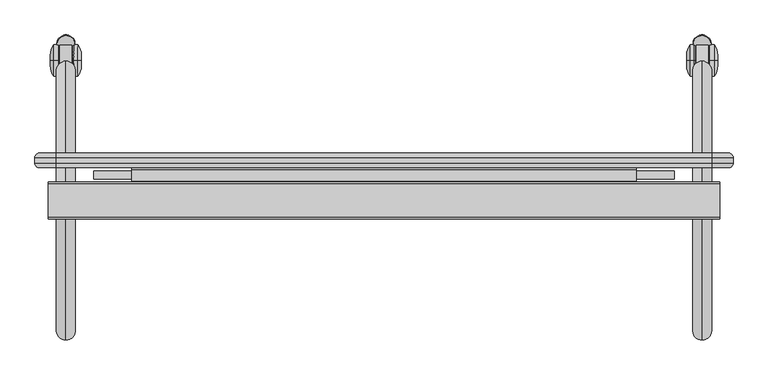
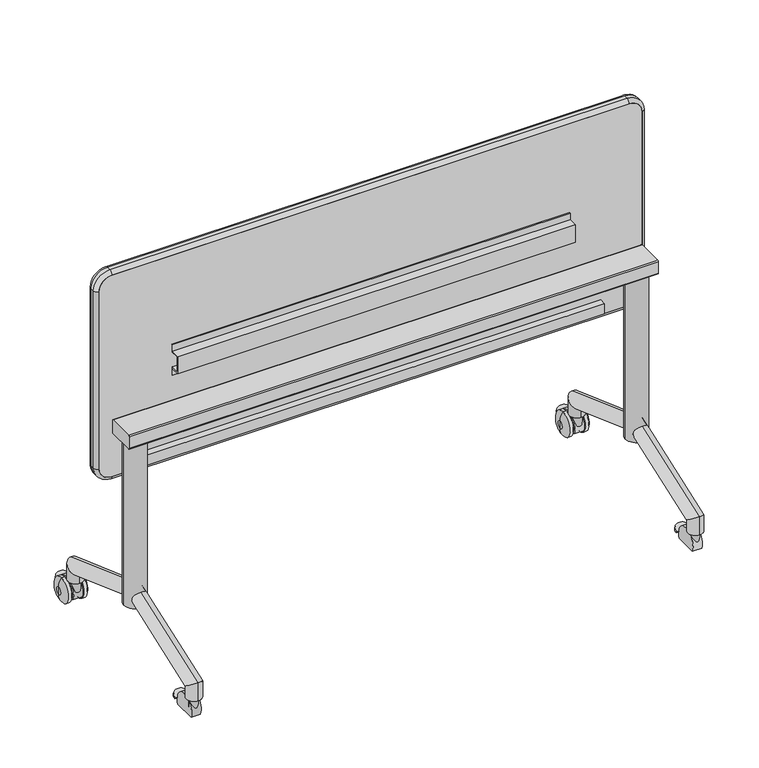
"""IFC4 building model written with IfcOpenShell, lengths in millimetres: furniture geometry, SmithSystem_AM_Table_Education_Elemental_NestAndFold_Nested_24D : 24D x 60W."""

from ifc_helpers import new_model, si_unit, point, frame, frame_2d, origin, place, context, project, spatial, polyline, circle_curve, ellipse_curve, trimmed, segment, composite_curve, outline, extrude, source, transform, mapped, element, save
from ifc_brep_helpers import plane_surface, cylinder_surface, revolved_surface, advanced_brep


def furniture_3c5f1cf7(model_context):
    return source(origin(), model_context, "Body", "SolidModel", [
        advanced_brep(
        [(9.652, -233.0884913, 1061.2767703), (45.212, -233.0884913, 1096.8367703), (45.212, -223.5421117, 1106.4887703), (0.0, -223.5421117, 1061.2767703), (9.652, -201.3170825, 1061.2767703), (45.212, -201.3170825, 1096.8367703), (0.0, -210.8420535, 1061.2767703), (45.212, -210.8420535, 1106.4887703), (0.0, -223.5421117, 541.8459346), (9.652, -233.0884913, 541.8459346), (9.652, -201.3170825, 541.8459346), (0.0, -210.8420535, 541.8459346), (45.212, -233.0884913, 506.2859346), (45.212, -223.5421117, 496.6339346), (45.212, -201.3170825, 506.2859346), (45.212, -210.8420535, 496.6339346), (1478.788, -223.5421117, 496.6339346), (1478.788, -233.0884913, 506.2859346), (1478.788, -201.3170825, 506.2859346), (1478.788, -210.8420535, 496.6339346), (1514.348, -233.0884913, 541.8459346), (1524.0, -223.5421117, 541.8459346), (1514.348, -201.3170825, 541.8459346), (1524.0, -210.8420535, 541.8459346), (1524.0, -223.5421117, 1061.2767703), (1514.348, -233.0884913, 1061.2767703), (1514.348, -201.3170825, 1061.2767703), (1524.0, -210.8420535, 1061.2767703), (1478.788, -233.0884913, 1096.8367703), (1478.788, -223.5421117, 1106.4887703), (1478.788, -201.3170825, 1096.8367703), (1478.788, -210.8420535, 1106.4887703)],
        [
            (0, 1, circle_curve(frame((45.212, -233.0884913, 1061.2767703), z_axis=(0.0, 1.0, 0.0), x_axis=(0.0, 0.0, 1.0)), 35.56)),
            (1, 2, circle_curve(frame((45.212, -223.5421117, 1096.9418128), z_axis=(-1.0, 0.0, 0.0), x_axis=(0.0, 0.0, -1.0)), 9.5469575)),
            (2, 3, circle_curve(frame((45.212, -223.5421117, 1061.2767703), z_axis=(0.0, -1.0, 0.0), x_axis=(0.0, 0.0, 1.0)), 45.212)),
            (3, 0, circle_curve(frame((9.5469575, -223.5421117, 1061.2767703), z_axis=(0.0, 0.0, 1.0), x_axis=(1.0, 0.0, 0.0)), 9.5469575)),
            (4, 5, circle_curve(frame((45.212, -201.3170825, 1061.2767703), z_axis=(0.0, 1.0, 0.0), x_axis=(0.0, 0.0, 1.0)), 35.56)),
            (5, 1),
            (0, 4),
            (6, 7, circle_curve(frame((45.212, -210.8420535, 1061.2767703), z_axis=(0.0, 1.0, 0.0), x_axis=(0.0, 0.0, 1.0)), 45.212)),
            (7, 5, circle_curve(frame((45.212, -210.8420535, 1096.9629634), z_axis=(-1.0, 0.0, 0.0), x_axis=(0.0, 0.0, -1.0)), 9.5258069)),
            (4, 6, circle_curve(frame((9.5258069, -210.8420535, 1061.2767703), z_axis=(0.0, 0.0, 1.0), x_axis=(1.0, 0.0, 0.0)), 9.5258069)),
            (2, 7),
            (6, 3),
            (3, 8),
            (8, 9, circle_curve(frame((9.5469575, -223.5421117, 541.8459346), z_axis=(0.0, 0.0, 1.0), x_axis=(1.0, 0.0, 0.0)), 9.5469575)),
            (9, 0),
            (9, 10),
            (10, 4),
            (10, 11, circle_curve(frame((9.5258069, -210.8420535, 541.8459346), z_axis=(0.0, 0.0, 1.0), x_axis=(1.0, 0.0, 0.0)), 9.5258069)),
            (11, 6),
            (11, 8),
            (12, 9, circle_curve(frame((45.212, -233.0884913, 541.8459346), z_axis=(0.0, 1.0, 0.0), x_axis=(-1.0, 0.0, 0.0)), 35.56)),
            (8, 13, circle_curve(frame((45.212, -223.5421117, 541.8459346), z_axis=(0.0, -1.0, 0.0), x_axis=(-1.0, 0.0, 0.0)), 45.212)),
            (13, 12, circle_curve(frame((45.212, -223.5421117, 506.180892), z_axis=(-1.0, 0.0, 0.0), x_axis=(0.0, 0.0, 1.0)), 9.5469575)),
            (14, 10, circle_curve(frame((45.212, -201.3170825, 541.8459346), z_axis=(0.0, 1.0, 0.0), x_axis=(-1.0, 0.0, 0.0)), 35.56)),
            (12, 14),
            (15, 11, circle_curve(frame((45.212, -210.8420535, 541.8459346), z_axis=(0.0, 1.0, 0.0), x_axis=(-1.0, 0.0, 0.0)), 45.212)),
            (14, 15, circle_curve(frame((45.212, -210.8420535, 506.1597415), z_axis=(-1.0, 0.0, 0.0), x_axis=(0.0, 0.0, 1.0)), 9.5258069)),
            (15, 13),
            (13, 16),
            (16, 17, circle_curve(frame((1478.788, -223.5421117, 506.180892), z_axis=(-1.0, 0.0, 0.0), x_axis=(0.0, 0.0, 1.0)), 9.5469575)),
            (17, 12),
            (17, 18),
            (18, 14),
            (18, 19, circle_curve(frame((1478.788, -210.8420535, 506.1597415), z_axis=(-1.0, 0.0, 0.0), x_axis=(0.0, 0.0, 1.0)), 9.5258069)),
            (19, 15),
            (19, 16),
            (20, 17, circle_curve(frame((1478.788, -233.0884913, 541.8459346), z_axis=(0.0, 1.0, 0.0), x_axis=(0.0, 0.0, -1.0)), 35.56)),
            (16, 21, circle_curve(frame((1478.788, -223.5421117, 541.8459346), z_axis=(0.0, -1.0, 0.0), x_axis=(0.0, 0.0, -1.0)), 45.212)),
            (21, 20, circle_curve(frame((1514.4530425, -223.5421117, 541.8459346), z_axis=(0.0, 0.0, -1.0), x_axis=(-1.0, 0.0, 0.0)), 9.5469575)),
            (22, 18, circle_curve(frame((1478.788, -201.3170825, 541.8459346), z_axis=(0.0, 1.0, 0.0), x_axis=(0.0, 0.0, -1.0)), 35.56)),
            (20, 22),
            (23, 19, circle_curve(frame((1478.788, -210.8420535, 541.8459346), z_axis=(0.0, 1.0, 0.0), x_axis=(0.0, 0.0, -1.0)), 45.212)),
            (22, 23, circle_curve(frame((1514.4741931, -210.8420535, 541.8459346), z_axis=(0.0, 0.0, -1.0), x_axis=(-1.0, 0.0, 0.0)), 9.5258069)),
            (23, 21),
            (21, 24),
            (24, 25, circle_curve(frame((1514.4530425, -223.5421117, 1061.2767703), z_axis=(0.0, 0.0, -1.0), x_axis=(-1.0, 0.0, 0.0)), 9.5469575)),
            (25, 20),
            (25, 26),
            (26, 22),
            (26, 27, circle_curve(frame((1514.4741931, -210.8420535, 1061.2767703), z_axis=(0.0, 0.0, -1.0), x_axis=(-1.0, 0.0, 0.0)), 9.5258069)),
            (27, 23),
            (27, 24),
            (28, 25, circle_curve(frame((1478.788, -233.0884913, 1061.2767703), z_axis=(0.0, 1.0, 0.0), x_axis=(1.0, 0.0, 0.0)), 35.56)),
            (24, 29, circle_curve(frame((1478.788, -223.5421117, 1061.2767703), z_axis=(0.0, -1.0, 0.0), x_axis=(1.0, 0.0, 0.0)), 45.212)),
            (29, 28, circle_curve(frame((1478.788, -223.5421117, 1096.9418128), z_axis=(1.0, 0.0, 0.0), x_axis=(0.0, 0.0, -1.0)), 9.5469575)),
            (30, 26, circle_curve(frame((1478.788, -201.3170825, 1061.2767703), z_axis=(0.0, 1.0, 0.0), x_axis=(1.0, 0.0, 0.0)), 35.56)),
            (28, 30),
            (31, 27, circle_curve(frame((1478.788, -210.8420535, 1061.2767703), z_axis=(0.0, 1.0, 0.0), x_axis=(1.0, 0.0, 0.0)), 45.212)),
            (30, 31, circle_curve(frame((1478.788, -210.8420535, 1096.9629634), z_axis=(1.0, 0.0, 0.0), x_axis=(0.0, 0.0, -1.0)), 9.5258069)),
            (31, 29),
            (29, 2),
            (1, 28),
            (5, 30),
            (7, 31),
        ],
        [
            revolved_surface(trimmed(ellipse_curve(frame((45.212, -223.5421117, 1096.9418128), z_axis=(1.0, 0.0, 0.0), x_axis=(0.0, 0.0, -1.0)), 9.5469575, 9.5469575), [point((45.212, -223.5421117, 1106.4887703))], [point((45.212, -233.0884913, 1096.8367703))], True, "CARTESIAN"), (45.212, 0.0, 1061.2767703), (0.0, -1.0, 0.0)),
            revolved_surface(polyline([(45.212, -233.0884913, 1096.8367703), (45.212, -201.3170825, 1096.8367703)]), (45.212, 0.0, 1061.2767703), (0.0, -1.0, 0.0)),
            revolved_surface(trimmed(ellipse_curve(frame((45.212, -210.8420535, 1096.9629634), z_axis=(1.0, 0.0, 0.0), x_axis=(0.0, 0.0, -1.0)), 9.5258069, 9.5258069), [point((45.212, -201.3170825, 1096.8367703))], [point((45.212, -210.8420535, 1106.4887703))], True, "CARTESIAN"), (45.212, 0.0, 1061.2767703), (0.0, -1.0, 0.0)),
            cylinder_surface(frame((45.212, 0.0, 1061.2767703), z_axis=(0.0, -1.0, 0.0), x_axis=(0.0, 0.0, 1.0)), 45.212),
            cylinder_surface(frame((9.5469575, -223.5421117, 1061.2767703), z_axis=(0.0, 0.0, 1.0), x_axis=(1.0, 0.0, 0.0)), 9.5469575),
            plane_surface(frame((9.652, -233.0884913, 1061.2767703), z_axis=(1.0, 0.0, 0.0), x_axis=(0.0, 0.0, -1.0))),
            cylinder_surface(frame((9.5258069, -210.8420535, 1061.2767703), z_axis=(0.0, 0.0, 1.0), x_axis=(1.0, 0.0, 0.0)), 9.5258069),
            plane_surface(frame((0.0, -210.8420535, 1061.2767703), z_axis=(-1.0, 0.0, 0.0), x_axis=(0.0, 0.0, -1.0))),
            revolved_surface(trimmed(ellipse_curve(frame((9.5469575, -223.5421117, 541.8459346), z_axis=(0.0, 0.0, 1.0), x_axis=(1.0, 0.0, 0.0)), 9.5469575, 9.5469575), [point((0.0, -223.5421117, 541.8459346))], [point((9.652, -233.0884913, 541.8459346))], True, "CARTESIAN"), (45.212, 0.0, 541.8459346), (0.0, -1.0, 0.0)),
            revolved_surface(polyline([(9.652000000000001, -233.0884913, 541.8459346), (9.652000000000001, -201.3170825, 541.8459346)]), (45.212, 0.0, 541.8459346), (0.0, -1.0, 0.0)),
            revolved_surface(trimmed(ellipse_curve(frame((9.5258069, -210.8420535, 541.8459346), z_axis=(0.0, 0.0, 1.0), x_axis=(1.0, 0.0, 0.0)), 9.5258069, 9.5258069), [point((9.652, -201.3170825, 541.8459346))], [point((0.0, -210.8420535, 541.8459346))], True, "CARTESIAN"), (45.212, 0.0, 541.8459346), (0.0, -1.0, 0.0)),
            cylinder_surface(frame((45.212, 0.0, 541.8459346), z_axis=(0.0, -1.0, 0.0), x_axis=(-1.0, 0.0, 0.0)), 45.212),
            cylinder_surface(frame((45.212, -223.5421117, 506.180892), z_axis=(-1.0, 0.0, 0.0), x_axis=(0.0, 0.0, 1.0)), 9.5469575),
            plane_surface(frame((45.212, -233.0884913, 506.2859346), z_axis=(0.0, 0.0, 1.0), x_axis=(1.0, 0.0, 0.0))),
            cylinder_surface(frame((45.212, -210.8420535, 506.1597415), z_axis=(-1.0, 0.0, 0.0), x_axis=(0.0, 0.0, 1.0)), 9.5258069),
            plane_surface(frame((45.212, -210.8420535, 496.6339346), z_axis=(0.0, 0.0, -1.0), x_axis=(1.0, 0.0, 0.0))),
            revolved_surface(trimmed(ellipse_curve(frame((1478.788, -223.5421117, 506.180892), z_axis=(-1.0, 0.0, 0.0), x_axis=(0.0, 0.0, 1.0)), 9.5469575, 9.5469575), [point((1478.788, -223.5421117, 496.6339346))], [point((1478.788, -233.0884913, 506.2859346))], True, "CARTESIAN"), (1478.788, 0.0, 541.8459346), (0.0, -1.0, 0.0)),
            revolved_surface(polyline([(1478.788, -233.0884913, 506.28593459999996), (1478.788, -201.3170825, 506.28593459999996)]), (1478.788, 0.0, 541.8459346), (0.0, -1.0, 0.0)),
            revolved_surface(trimmed(ellipse_curve(frame((1478.788, -210.8420535, 506.1597415), z_axis=(-1.0, 0.0, 0.0), x_axis=(0.0, 0.0, 1.0)), 9.5258069, 9.5258069), [point((1478.788, -201.3170825, 506.2859346))], [point((1478.788, -210.8420535, 496.6339346))], True, "CARTESIAN"), (1478.788, 0.0, 541.8459346), (0.0, -1.0, 0.0)),
            cylinder_surface(frame((1478.788, 0.0, 541.8459346), z_axis=(0.0, -1.0, 0.0), x_axis=(0.0, 0.0, -1.0)), 45.212),
            cylinder_surface(frame((1514.4530425, -223.5421117, 541.8459346), z_axis=(0.0, 0.0, -1.0), x_axis=(-1.0, 0.0, 0.0)), 9.5469575),
            plane_surface(frame((1514.348, -233.0884913, 541.8459346), z_axis=(-1.0, 0.0, 0.0), x_axis=(0.0, 0.0, 1.0))),
            cylinder_surface(frame((1514.4741931, -210.8420535, 541.8459346), z_axis=(0.0, 0.0, -1.0), x_axis=(-1.0, 0.0, 0.0)), 9.5258069),
            plane_surface(frame((1524.0, -210.8420535, 541.8459346), z_axis=(1.0, 0.0, 0.0), x_axis=(0.0, 0.0, 1.0))),
            revolved_surface(trimmed(ellipse_curve(frame((1514.4530425, -223.5421117, 1061.2767703), z_axis=(0.0, 0.0, -1.0), x_axis=(-1.0, 0.0, 0.0)), 9.5469575, 9.5469575), [point((1524.0, -223.5421117, 1061.2767703))], [point((1514.348, -233.0884913, 1061.2767703))], True, "CARTESIAN"), (1478.788, 0.0, 1061.2767703), (0.0, -1.0, 0.0)),
            revolved_surface(polyline([(1514.348, -233.0884913, 1061.2767703), (1514.348, -201.3170825, 1061.2767703)]), (1478.788, 0.0, 1061.2767703), (0.0, -1.0, 0.0)),
            revolved_surface(trimmed(ellipse_curve(frame((1514.4741931, -210.8420535, 1061.2767703), z_axis=(0.0, 0.0, -1.0), x_axis=(-1.0, 0.0, 0.0)), 9.5258069, 9.5258069), [point((1514.348, -201.3170825, 1061.2767703))], [point((1524.0, -210.8420535, 1061.2767703))], True, "CARTESIAN"), (1478.788, 0.0, 1061.2767703), (0.0, -1.0, 0.0)),
            cylinder_surface(frame((1478.788, 0.0, 1061.2767703), z_axis=(0.0, -1.0, 0.0), x_axis=(1.0, 0.0, 0.0)), 45.212),
            cylinder_surface(frame((1478.788, -223.5421117, 1096.9418128), z_axis=(1.0, 0.0, 0.0), x_axis=(0.0, 0.0, -1.0)), 9.5469575),
            plane_surface(frame((1478.788, -233.0884913, 1096.8367703), z_axis=(0.0, 0.0, -1.0), x_axis=(-1.0, 0.0, 0.0))),
            cylinder_surface(frame((1478.788, -210.8420535, 1096.9629634), z_axis=(1.0, 0.0, 0.0), x_axis=(0.0, 0.0, -1.0)), 9.5258069),
            plane_surface(frame((1478.788, -210.8420535, 1106.4887703), z_axis=(0.0, 0.0, 1.0), x_axis=(-1.0, 0.0, 0.0))),
        ],
        [
            (0, [[1, 2, 3, 4]]),
            (1, [[5, 6, -1, 7]]),
            (2, [[8, 9, -5, 10]]),
            (3, [[-3, 11, -8, 12]]),
            (4, [[-4, 13, 14, 15]]),
            (5, [[-7, -15, 16, 17]]),
            (6, [[-10, -17, 18, 19]]),
            (7, [[-12, -19, 20, -13]]),
            (8, [[21, -14, 22, 23]]),
            (9, [[24, -16, -21, 25]]),
            (10, [[26, -18, -24, 27]]),
            (11, [[-22, -20, -26, 28]]),
            (12, [[-23, 29, 30, 31]]),
            (13, [[-25, -31, 32, 33]]),
            (14, [[-27, -33, 34, 35]]),
            (15, [[-28, -35, 36, -29]]),
            (16, [[37, -30, 38, 39]]),
            (17, [[40, -32, -37, 41]]),
            (18, [[42, -34, -40, 43]]),
            (19, [[-38, -36, -42, 44]]),
            (20, [[-39, 45, 46, 47]]),
            (21, [[-41, -47, 48, 49]]),
            (22, [[-43, -49, 50, 51]]),
            (23, [[-44, -51, 52, -45]]),
            (24, [[53, -46, 54, 55]]),
            (25, [[56, -48, -53, 57]]),
            (26, [[58, -50, -56, 59]]),
            (27, [[-54, -52, -58, 60]]),
            (28, [[-55, 61, -2, 62]]),
            (29, [[-57, -62, -6, 63]]),
            (30, [[-59, -63, -9, 64]]),
            (31, [[-60, -64, -11, -61]]),
        ],
    ),
        extrude(outline(composite_curve([segment(polyline([(1096.8367703, 1478.788), (1096.8367703, 45.212)]), True, "CONTINUOUS"), segment(trimmed(circle_curve(frame_2d((1061.2767703, 45.212)), 35.56), [point((1096.8367703, 45.212))], [point((1061.2767703, 9.652))], False, "CARTESIAN"), True, "CONTINUOUS"), segment(polyline([(1061.2767703, 9.652), (541.8459346, 9.652)]), True, "CONTINUOUS"), segment(trimmed(circle_curve(frame_2d((541.8459346, 45.212)), 35.56), [point((541.8459346, 9.652))], [point((506.2859346, 45.212))], False, "CARTESIAN"), True, "CONTINUOUS"), segment(polyline([(506.2859346, 45.212), (506.2859346, 1478.788)]), True, "CONTINUOUS"), segment(trimmed(circle_curve(frame_2d((541.8459346, 1478.788)), 35.56), [point((506.2859346, 1478.788))], [point((541.8459346, 1514.348))], False, "CARTESIAN"), True, "CONTINUOUS"), segment(polyline([(541.8459346, 1514.348), (1061.2767703, 1514.348)]), True, "CONTINUOUS"), segment(trimmed(circle_curve(frame_2d((1061.2767703, 1478.788)), 35.56), [point((1061.2767703, 1514.348))], [point((1096.8367703, 1478.788))], False, "CARTESIAN"), True, "CONTINUOUS")], self_intersect=False)), frame((0.0, -233.0884913, 0.0), z_axis=(0.0, 1.0, 0.0), x_axis=(0.0, 0.0, 1.0)), (0.0, 0.0, 1.0), 31.7501722),
        extrude(outline(composite_curve([segment(trimmed(circle_curve(frame_2d((67.6376194, -304.8)), 30.1619336), [point((37.4756858, -304.8))], [point((97.799553, -304.8))], False, "CARTESIAN"), True, "CONTINUOUS"), segment(trimmed(circle_curve(frame_2d((67.6376194, -304.8)), 30.1619336), [point((97.799553, -304.8))], [point((37.4756858, -304.8))], False, "CARTESIAN"), True, "CONTINUOUS")], self_intersect=False)), frame((0.0, 0.0, 176.5765345), z_axis=(0.0, 0.0, 1.0), x_axis=(1.0, 0.0, 0.0)), (0.0, 0.0, 1.0), 482.8708043),
        extrude(outline(composite_curve([segment(trimmed(circle_curve(frame_2d((1456.3623806, -304.8)), 30.1619336), [point((1426.200447, -304.8))], [point((1486.5243142, -304.8))], False, "CARTESIAN"), True, "CONTINUOUS"), segment(trimmed(circle_curve(frame_2d((1456.3623806, -304.8)), 30.1619336), [point((1486.5243142, -304.8))], [point((1426.200447, -304.8))], False, "CARTESIAN"), True, "CONTINUOUS")], self_intersect=False)), frame((0.0, 0.0, 176.5765345), z_axis=(0.0, 0.0, 1.0), x_axis=(1.0, 0.0, 0.0)), (0.0, 0.0, 1.0), 482.8708043),
        extrude(outline(polyline([(1395.6745397, -239.7883562), (1395.6745397, -257.7884296), (128.3254603, -257.7884296), (128.3254603, -239.7883562), (1395.6745397, -239.7883562)])), frame((0.0, 0.0, 525.346294), z_axis=(0.0, 0.0, 1.0), x_axis=(1.0, 0.0, 0.0)), (0.0, 0.0, 1.0), 30.0003825),
        extrude(outline(polyline([(-236.787659, 836.8748039), (-233.7498176, 836.8748039), (-233.7498176, 814.786967), (-259.1498021, 814.786967), (-259.1498021, 770.0626791), (-233.7495475, 770.0626791), (-233.7495475, 747.9747796), (-236.787389, 747.9747796), (-236.787389, 767.0247832), (-262.1876433, 767.0247832), (-262.1876433, 817.8248074), (-236.787659, 817.8248074), (-236.787659, 836.8748039)])), frame((211.3171616, 0.0, 0.0), z_axis=(1.0, 0.0, 0.0), x_axis=(0.0, 1.0, 0.0)), (0.0, 0.0, 1.0), 1101.3656767),
        extrude(outline(composite_curve([segment(polyline([(-341.7081299, 699.4317459), (-267.7421288, 699.4317459)]), True, "CONTINUOUS"), segment(trimmed(circle_curve(frame_2d((-267.7421288, 696.268135)), 3.1636109), [point((-267.7421288, 699.4317459))], [point((-264.5785179, 696.268135))], False, "CARTESIAN"), True, "CONTINUOUS"), segment(polyline([(-264.5785179, 696.268135), (-264.5785179, 662.5890828)]), True, "CONTINUOUS"), segment(trimmed(circle_curve(frame_2d((-267.720262, 662.5890828)), 3.1417441), [point((-264.5785179, 662.5890828))], [point((-267.720262, 659.4473388))], False, "CARTESIAN"), True, "CONTINUOUS"), segment(polyline([(-267.720262, 659.4473388), (-341.8879819, 659.4473388)]), True, "CONTINUOUS"), segment(trimmed(circle_curve(frame_2d((-341.8879819, 662.3885905)), 2.9412518), [point((-341.8879819, 659.4473388))], [point((-344.8292336, 662.3885905))], False, "CARTESIAN"), True, "CONTINUOUS"), segment(polyline([(-344.8292336, 662.3885905), (-344.8292336, 696.3106422)]), True, "CONTINUOUS"), segment(trimmed(circle_curve(frame_2d((-341.7081299, 696.3106422)), 3.1211038), [point((-344.8292336, 696.3106422))], [point((-341.7081299, 699.4317459))], False, "CARTESIAN"), True, "CONTINUOUS")], self_intersect=False)), frame((29.2900918, 0.0, 0.0), z_axis=(1.0, 0.0, 0.0), x_axis=(0.0, 1.0, 0.0)), (0.0, 0.0, 1.0), 1465.4198163),
        advanced_brep(
        [(1456.3623806, -609.5471229, 70.6186995), (1456.3623806, -567.7698231, 70.6186995), (1456.3623806, -567.7698231, 93.9831592), (1456.3623806, -609.5471229, 123.3523722), (1456.3623806, -304.7991012, 188.5857808), (1456.3623806, -304.7990952, 232.9842055), (1456.3623806, -41.8283238, 93.9830579), (1456.3623806, -0.051024, 123.3522623), (1456.3623806, -0.051024, 70.5787784), (1456.3623806, -41.8283238, 70.5787784)],
        [
            (0, 1, circle_curve(frame((1456.3623806, -588.658473, 70.6186995), z_axis=(0.0, 0.0, -1.0), x_axis=(0.0, 1.0, 0.0)), 20.8886499)),
            (1, 0, circle_curve(frame((1456.3623806, -588.658473, 70.6186995), z_axis=(0.0, 0.0, -1.0), x_axis=(0.0, 1.0, 0.0)), 20.8886499)),
            (1, 2),
            (2, 3, ellipse_curve(frame((1456.3623806, -588.658473, 108.6677657), z_axis=(0.0, -0.5751053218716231, -0.8180793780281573), x_axis=(0.0, 0.8180793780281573, -0.5751053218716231)), 25.5337691, 20.8886499)),
            (3, 0),
            (3, 2, ellipse_curve(frame((1456.3623806, -588.658473, 108.6677657), z_axis=(0.0, -0.5751053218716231, -0.8180793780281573), x_axis=(0.0, 0.8180793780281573, -0.5751053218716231)), 25.5337691, 20.8886499)),
            (2, 4),
            (4, 5, ellipse_curve(frame((1456.3623806, -304.7990982, 210.7849931), z_axis=(0.0, -0.9999999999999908, 1.3700446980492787e-07), x_axis=(0.0, -1.3700446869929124e-07, -0.9999999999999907)), 22.1992124, 20.8886499)),
            (5, 3),
            (5, 4, ellipse_curve(frame((1456.3623806, -304.7990982, 210.7849931), z_axis=(0.0, -0.9999999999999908, 1.3700446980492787e-07), x_axis=(0.0, -1.3700446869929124e-07, -0.9999999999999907)), 22.1992124, 20.8886499)),
            (4, 6),
            (6, 7, ellipse_curve(frame((1456.3623806, -20.9396739, 108.6676601), z_axis=(0.0, -0.5751052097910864, 0.8180794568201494), x_axis=(0.0, -0.8180794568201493, -0.5751052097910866)), 25.5337666, 20.8886499)),
            (7, 5),
            (7, 6, ellipse_curve(frame((1456.3623806, -20.9396739, 108.6676601), z_axis=(0.0, -0.5751052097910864, 0.8180794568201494), x_axis=(0.0, -0.8180794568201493, -0.5751052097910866)), 25.5337666, 20.8886499)),
            (8, 9, circle_curve(frame((1456.3623806, -20.9396739, 70.5787784), z_axis=(0.0, 0.0, -1.0), x_axis=(0.0, -1.0, 0.0)), 20.8886499)),
            (9, 8, circle_curve(frame((1456.3623806, -20.9396739, 70.5787784), z_axis=(0.0, 0.0, -1.0), x_axis=(0.0, -1.0, 0.0)), 20.8886499)),
            (6, 9),
            (8, 7),
        ],
        [
            plane_surface(frame((1221.0646961, -567.727356, 70.6186995), z_axis=(0.0, 0.0, -1.0), x_axis=(-1.0, 0.0, 0.0))),
            cylinder_surface(frame((1456.3623806, -588.658473, 70.6186995), z_axis=(0.0, 0.0, -1.0), x_axis=(0.0, 1.0, 0.0)), 20.8886499),
            cylinder_surface(frame((1456.3623806, -574.8127011, 113.6487245), z_axis=(0.0, -0.9409636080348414, -0.33850773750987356), x_axis=(0.0, 0.33850773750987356, -0.9409636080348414)), 20.8886499),
            cylinder_surface(frame((1456.3623806, -297.7137508, 208.2360667), z_axis=(0.0, -0.9409635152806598, 0.3385079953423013), x_axis=(0.0, -0.3385079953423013, -0.9409635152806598)), 20.8886499),
            plane_surface(frame((1221.0646961, -41.8707909, 70.5787784), z_axis=(0.0, 0.0, -1.0), x_axis=(-1.0, 0.0, 0.0))),
            cylinder_surface(frame((1456.3623806, -20.9396739, 93.9532037), z_axis=(0.0, 0.0, 1.0), x_axis=(0.0, -1.0, 0.0)), 20.8886499),
        ],
        [
            (0, [[1, 2]]),
            (1, [[-2, 3, 4, 5]]),
            (1, [[-1, -5, 6, -3]]),
            (2, [[-4, 7, 8, 9]]),
            (2, [[-6, -9, 10, -7]]),
            (3, [[-8, 11, 12, 13]]),
            (3, [[-10, -13, 14, -11]]),
            (4, [[15, 16]]),
            (5, [[-12, 17, -15, 18]]),
            (5, [[-14, -18, -16, -17]]),
        ],
    ),
        extrude(outline(composite_curve([segment(trimmed(circle_curve(frame_2d((67.6376194, -586.9963133)), 11.938), [point((55.6996194, -586.9963133))], [point((79.5756194, -586.9963133))], False, "CARTESIAN"), True, "CONTINUOUS"), segment(trimmed(circle_curve(frame_2d((67.6376194, -586.9963133)), 11.938), [point((79.5756194, -586.9963133))], [point((55.6996194, -586.9963133))], False, "CARTESIAN"), True, "CONTINUOUS")], self_intersect=False)), frame((0.0, 0.0, 40.2035231), z_axis=(0.0, 0.0, 1.0), x_axis=(1.0, 0.0, 0.0)), (0.0, 0.0, 1.0), 63.0595327),
        extrude(outline(composite_curve([segment(trimmed(circle_curve(frame_2d((1456.3623806, -586.9963133)), 11.938), [point((1444.4243806, -586.9963133))], [point((1468.3003806, -586.9963133))], False, "CARTESIAN"), True, "CONTINUOUS"), segment(trimmed(circle_curve(frame_2d((1456.3623806, -586.9963133)), 11.938), [point((1468.3003806, -586.9963133))], [point((1444.4243806, -586.9963133))], False, "CARTESIAN"), True, "CONTINUOUS")], self_intersect=False)), frame((0.0, 0.0, 40.2035231), z_axis=(0.0, 0.0, 1.0), x_axis=(1.0, 0.0, 0.0)), (0.0, 0.0, 1.0), 63.0595327),
        extrude(outline(composite_curve([segment(trimmed(circle_curve(frame_2d((67.6376194, -22.6036867)), 11.938), [point((55.6996194, -22.6036867))], [point((79.5756194, -22.6036867))], False, "CARTESIAN"), True, "CONTINUOUS"), segment(trimmed(circle_curve(frame_2d((67.6376194, -22.6036867)), 11.938), [point((79.5756194, -22.6036867))], [point((55.6996194, -22.6036867))], False, "CARTESIAN"), True, "CONTINUOUS")], self_intersect=False)), frame((0.0, 0.0, 40.2035231), z_axis=(0.0, 0.0, 1.0), x_axis=(1.0, 0.0, 0.0)), (0.0, 0.0, 1.0), 63.0595327),
        extrude(outline(composite_curve([segment(trimmed(circle_curve(frame_2d((1456.3623806, -22.6036867)), 11.938), [point((1444.4243806, -22.6036867))], [point((1468.3003806, -22.6036867))], False, "CARTESIAN"), True, "CONTINUOUS"), segment(trimmed(circle_curve(frame_2d((1456.3623806, -22.6036867)), 11.938), [point((1468.3003806, -22.6036867))], [point((1444.4243806, -22.6036867))], False, "CARTESIAN"), True, "CONTINUOUS")], self_intersect=False)), frame((0.0, 0.0, 40.2035231), z_axis=(0.0, 0.0, 1.0), x_axis=(1.0, 0.0, 0.0)), (0.0, 0.0, 1.0), 63.0595327),
        advanced_brep(
        [(67.6376194, -567.7698231, 70.6186995), (67.6376194, -609.5471229, 70.6186995), (67.6376194, -567.7698231, 93.9831592), (67.6376194, -609.5471229, 123.3523722), (67.6376194, -304.7991012, 188.5857808), (67.6376194, -304.7990952, 232.9842055), (67.6376194, -41.8283238, 93.9830579), (67.6376194, -0.051024, 123.3522623), (67.6376194, -41.8283238, 70.5787784), (67.6376194, -0.051024, 70.5787784)],
        [
            (0, 1, circle_curve(frame((67.6376194, -588.658473, 70.6186995), z_axis=(0.0, 0.0, -1.0), x_axis=(0.0, -1.0, 0.0)), 20.8886499)),
            (1, 0, circle_curve(frame((67.6376194, -588.658473, 70.6186995), z_axis=(0.0, 0.0, -1.0), x_axis=(0.0, -1.0, 0.0)), 20.8886499)),
            (0, 2),
            (2, 3, ellipse_curve(frame((67.6376194, -588.658473, 108.6677657), z_axis=(0.0, -0.5751053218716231, -0.8180793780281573), x_axis=(0.0, 0.8180793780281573, -0.5751053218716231)), 25.5337691, 20.8886499)),
            (3, 1),
            (3, 2, ellipse_curve(frame((67.6376194, -588.658473, 108.6677657), z_axis=(0.0, -0.5751053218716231, -0.8180793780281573), x_axis=(0.0, 0.8180793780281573, -0.5751053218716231)), 25.5337691, 20.8886499)),
            (2, 4),
            (4, 5, ellipse_curve(frame((67.6376194, -304.7990982, 210.7849931), z_axis=(0.0, -0.9999999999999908, 1.3700446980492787e-07), x_axis=(0.0, -1.3700446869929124e-07, -0.9999999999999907)), 22.1992124, 20.8886499)),
            (5, 3),
            (5, 4, ellipse_curve(frame((67.6376194, -304.7990982, 210.7849931), z_axis=(0.0, -0.9999999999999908, 1.3700446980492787e-07), x_axis=(0.0, -1.3700446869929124e-07, -0.9999999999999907)), 22.1992124, 20.8886499)),
            (4, 6),
            (6, 7, ellipse_curve(frame((67.6376194, -20.9396739, 108.6676601), z_axis=(0.0, -0.5751052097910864, 0.8180794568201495), x_axis=(0.0, -0.8180794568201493, -0.5751052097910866)), 25.5337666, 20.8886499)),
            (7, 5),
            (7, 6, ellipse_curve(frame((67.6376194, -20.9396739, 108.6676601), z_axis=(0.0, -0.5751052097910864, 0.8180794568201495), x_axis=(0.0, -0.8180794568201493, -0.5751052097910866)), 25.5337666, 20.8886499)),
            (8, 9, circle_curve(frame((67.6376194, -20.9396739, 70.5787784), z_axis=(0.0, 0.0, -1.0), x_axis=(0.0, 1.0, 0.0)), 20.8886499)),
            (9, 8, circle_curve(frame((67.6376194, -20.9396739, 70.5787784), z_axis=(0.0, 0.0, -1.0), x_axis=(0.0, 1.0, 0.0)), 20.8886499)),
            (6, 8),
            (9, 7),
        ],
        [
            plane_surface(frame((0.0, -567.727356, 70.6186995), z_axis=(0.0, 0.0, -1.0), x_axis=(1.0, 0.0, 0.0))),
            cylinder_surface(frame((67.6376194, -588.658473, 70.6186995), z_axis=(0.0, 0.0, -1.0), x_axis=(0.0, -1.0, 0.0)), 20.8886499),
            cylinder_surface(frame((67.6376194, -574.8127011, 113.6487245), z_axis=(0.0, -0.9409636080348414, -0.33850773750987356), x_axis=(0.0, -0.33850773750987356, 0.9409636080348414)), 20.8886499),
            cylinder_surface(frame((67.6376194, -297.7137508, 208.2360667), z_axis=(0.0, -0.9409635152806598, 0.3385079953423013), x_axis=(0.0, 0.3385079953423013, 0.9409635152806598)), 20.8886499),
            plane_surface(frame((0.0, -41.8707909, 70.5787784), z_axis=(0.0, 0.0, -1.0), x_axis=(1.0, 0.0, 0.0))),
            cylinder_surface(frame((67.6376194, -20.9396739, 93.9532037), z_axis=(0.0, 0.0, 1.0), x_axis=(0.0, 1.0, 0.0)), 20.8886499),
        ],
        [
            (0, [[1, 2]]),
            (1, [[-1, 3, 4, 5]]),
            (1, [[-2, -5, 6, -3]]),
            (2, [[-4, 7, 8, 9]]),
            (2, [[-6, -9, 10, -7]]),
            (3, [[-8, 11, 12, 13]]),
            (3, [[-10, -13, 14, -11]]),
            (4, [[15, 16]]),
            (5, [[-12, 17, -16, 18]]),
            (5, [[-14, -18, -15, -17]]),
        ],
    ),
        extrude(outline(composite_curve([segment(trimmed(circle_curve(frame_2d((19.6281289, -2.9116942)), 19.8429183), [point((39.2562578, 0.0))], [point((0.0, 0.0))], False, "CARTESIAN"), True, "CONTINUOUS"), segment(polyline([(0.0, 0.0), (39.2562578, 0.0)]), True, "CONTINUOUS")], self_intersect=False)), frame((1475.9610423, 35.9312028, 35.4234949), z_axis=(0.0, -0.3384834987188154, 0.9409723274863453), x_axis=(-1.0, 0.0, 0.0)), (0.0, 0.0, 1.0), 5.0798819),
        extrude(outline(composite_curve([segment(polyline([(1388.6658268, 0.0), (1427.9220846, 0.0)]), True, "CONTINUOUS"), segment(trimmed(circle_curve(frame_2d((1408.2939557, -2.9116942)), 19.8429183), [point((1427.9220846, 0.0))], [point((1388.6658268, 0.0))], False, "CARTESIAN"), True, "CONTINUOUS")], self_intersect=False)), frame((1475.9610423, 35.9312028, 35.4234949), z_axis=(0.0, -0.3384834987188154, 0.9409723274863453), x_axis=(-1.0, 0.0, 0.0)), (0.0, 0.0, 1.0), 5.0798819),
        extrude(outline(composite_curve([segment(trimmed(circle_curve(frame_2d((19.6281289, -2.9116942)), 19.8429183), [point((39.2562578, 0.0))], [point((0.0, 0.0))], False, "CARTESIAN"), True, "CONTINUOUS"), segment(polyline([(0.0, 0.0), (39.2562578, 0.0)]), True, "CONTINUOUS")], self_intersect=False)), frame((1475.9610423, -531.202391, 35.4234949), z_axis=(0.0, -0.3384834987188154, 0.9409723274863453), x_axis=(-1.0, 0.0, 0.0)), (0.0, 0.0, 1.0), 5.0798819),
        extrude(outline(composite_curve([segment(polyline([(1388.6658268, 0.0), (1427.9220846, 0.0)]), True, "CONTINUOUS"), segment(trimmed(circle_curve(frame_2d((1408.2939557, -2.9116942)), 19.8429183), [point((1427.9220846, 0.0))], [point((1388.6658268, 0.0))], False, "CARTESIAN"), True, "CONTINUOUS")], self_intersect=False)), frame((1475.9610423, -531.202391, 35.4234949), z_axis=(0.0, -0.3384834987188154, 0.9409723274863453), x_axis=(-1.0, 0.0, 0.0)), (0.0, 0.0, 1.0), 5.0798819),
        extrude(outline(composite_curve([segment(polyline([(-534.3716582, 19.392668), (-597.1174044, 19.392668)]), True, "CONTINUOUS"), segment(trimmed(circle_curve(frame_2d((-565.7445313, 34.2990606)), 34.7341), [point((-597.1174044, 19.392668))], [point((-534.3716582, 19.392668))], False, "CARTESIAN"), True, "CONTINUOUS")], self_intersect=False)), frame((54.6490652, 0.0, 0.0), z_axis=(1.0, 0.0, 0.0), x_axis=(0.0, 1.0, 0.0)), (0.0, 0.0, 1.0), 26.0360428),
        extrude(outline(composite_curve([segment(polyline([(32.7611544, 19.392668), (-29.9845918, 19.392668)]), True, "CONTINUOUS"), segment(trimmed(circle_curve(frame_2d((1.3882813, 34.2990606)), 34.7341), [point((-29.9845918, 19.392668))], [point((32.7611544, 19.392668))], False, "CARTESIAN"), True, "CONTINUOUS")], self_intersect=False)), frame((54.6490652, 0.0, 0.0), z_axis=(1.0, 0.0, 0.0), x_axis=(0.0, 1.0, 0.0)), (0.0, 0.0, 1.0), 26.0360428),
        extrude(outline(composite_curve([segment(polyline([(-534.3716582, 19.392668), (-597.1174044, 19.392668)]), True, "CONTINUOUS"), segment(trimmed(circle_curve(frame_2d((-565.7445313, 34.2990606)), 34.7341), [point((-597.1174044, 19.392668))], [point((-534.3716582, 19.392668))], False, "CARTESIAN"), True, "CONTINUOUS")], self_intersect=False)), frame((1443.314892, 0.0, 0.0), z_axis=(1.0, 0.0, 0.0), x_axis=(0.0, 1.0, 0.0)), (0.0, 0.0, 1.0), 26.0360428),
        extrude(outline(composite_curve([segment(polyline([(32.7611544, 19.392668), (-29.9845918, 19.392668)]), True, "CONTINUOUS"), segment(trimmed(circle_curve(frame_2d((1.3882813, 34.2990606)), 34.7341), [point((-29.9845918, 19.392668))], [point((32.7611544, 19.392668))], False, "CARTESIAN"), True, "CONTINUOUS")], self_intersect=False)), frame((1443.314892, 0.0, 0.0), z_axis=(1.0, 0.0, 0.0), x_axis=(0.0, 1.0, 0.0)), (0.0, 0.0, 1.0), 26.0360428),
        advanced_brep(
        [(1441.7769566, 1.3882813, 34.3697295), (1441.7769566, 1.3882813, 66.3180847), (1441.7769566, 1.3882813, 2.4213744), (1439.6062544, 1.3882813, 69.0331606), (1439.6062544, 1.3882813, -0.2937015), (1430.6015712, 1.3882813, 69.0331606), (1430.6015712, 1.3882813, -0.2937015), (1422.6841685, 1.3882813, 45.9515492), (1422.6841685, 1.3882813, 22.7879099), (1422.6841685, 1.3882813, 34.3697295)],
        [
            (0, 1),
            (1, 2, circle_curve(frame((1441.7769566, 1.3882813, 34.3697295), z_axis=(1.0, 0.0, 0.0), x_axis=(0.0, 0.0, 1.0)), 31.9483552)),
            (2, 0),
            (2, 1, circle_curve(frame((1441.7769566, 1.3882813, 34.3697295), z_axis=(1.0, 0.0, 0.0), x_axis=(0.0, 0.0, 1.0)), 31.9483552)),
            (1, 3),
            (3, 4, circle_curve(frame((1439.6062544, 1.3882813, 34.3697295), z_axis=(1.0, 0.0, 0.0), x_axis=(0.0, 0.0, 1.0)), 34.6634311)),
            (4, 2),
            (4, 3, circle_curve(frame((1439.6062544, 1.3882813, 34.3697295), z_axis=(1.0, 0.0, 0.0), x_axis=(0.0, 0.0, 1.0)), 34.6634311)),
            (3, 5),
            (5, 6, circle_curve(frame((1430.6015712, 1.3882813, 34.3697295), z_axis=(1.0, 0.0, 0.0), x_axis=(0.0, 0.0, 1.0)), 34.6634311)),
            (6, 4),
            (6, 5, circle_curve(frame((1430.6015712, 1.3882813, 34.3697295), z_axis=(1.0, 0.0, 0.0), x_axis=(0.0, 0.0, 1.0)), 34.6634311)),
            (5, 7, circle_curve(frame((1460.2877916, 1.3882813, 45.9515492), z_axis=(0.0, -1.0, 0.0), x_axis=(1.0, 0.0, 0.0)), 37.6036231)),
            (7, 8, circle_curve(frame((1422.6841685, 1.3882813, 34.3697295), z_axis=(1.0, 0.0, 0.0), x_axis=(0.0, 0.0, 1.0)), 11.5818197)),
            (8, 6, circle_curve(frame((1460.2877916, 1.3882813, 22.7879099), z_axis=(0.0, -1.0, 0.0), x_axis=(1.0, 0.0, 0.0)), 37.6036231)),
            (8, 7, circle_curve(frame((1422.6841685, 1.3882813, 34.3697295), z_axis=(1.0, 0.0, 0.0), x_axis=(0.0, 0.0, 1.0)), 11.5818197)),
            (7, 9),
            (9, 8),
        ],
        [
            plane_surface(frame((1441.7769566, 1.3882813, 34.3697295), z_axis=(1.0, 0.0, 0.0), x_axis=(0.0, 0.0, 1.0))),
            revolved_surface(polyline([(1439.6062544, 1.3882813, 69.0331606), (1441.7769566, 1.3882813, 66.3180847)]), (1422.6841685, 1.3882813, 34.3697295), (1.0, 0.0, 0.0)),
            cylinder_surface(frame((1422.6841685, 1.3882813, 34.3697295), z_axis=(1.0, 0.0, 0.0), x_axis=(0.0, 0.0, 1.0)), 34.6634311),
            revolved_surface(trimmed(ellipse_curve(frame((1460.2877916, 1.3882813, 45.9515492), z_axis=(0.0, 1.0, 0.0), x_axis=(1.0, 0.0, 0.0)), 37.6036231, 37.6036231), [point((1422.6841685, 1.3882813, 45.9515492))], [point((1430.6015712, 1.3882813, 69.0331606))], True, "CARTESIAN"), (1422.6841685, 1.3882813, 34.3697295), (1.0, 0.0, 0.0)),
            plane_surface(frame((1422.6841685, 1.3882813, 34.3697295), z_axis=(-1.0, 0.0, 0.0), x_axis=(0.0, 0.0, 1.0))),
        ],
        [
            (0, [[1, 2, 3]]),
            (0, [[-3, 4, -1]]),
            (1, [[-2, 5, 6, 7]]),
            (1, [[-4, -7, 8, -5]]),
            (2, [[-6, 9, 10, 11]]),
            (2, [[-8, -11, 12, -9]]),
            (3, [[-10, 13, 14, 15]]),
            (3, [[-12, -15, 16, -13]]),
            (4, [[-14, 17, 18]]),
            (4, [[-16, -18, -17]]),
        ],
    ),
        advanced_brep(
        [(1490.4247373, 1.3882813, 34.3697295), (1490.4247373, 1.3882813, 45.9515492), (1490.4247373, 1.3882813, 22.7879099), (1482.5073346, 1.3882813, 69.0331606), (1482.5073346, 1.3882813, -0.2937015), (1473.5026514, 1.3882813, 69.0331606), (1473.5026514, 1.3882813, -0.2937015), (1471.3319492, 1.3882813, 66.3180847), (1471.3319492, 1.3882813, 2.4213744), (1471.3319492, 1.3882813, 34.3697295)],
        [
            (0, 1),
            (1, 2, circle_curve(frame((1490.4247373, 1.3882813, 34.3697295), z_axis=(1.0, 0.0, 0.0), x_axis=(0.0, 0.0, 1.0)), 11.5818197)),
            (2, 0),
            (2, 1, circle_curve(frame((1490.4247373, 1.3882813, 34.3697295), z_axis=(1.0, 0.0, 0.0), x_axis=(0.0, 0.0, 1.0)), 11.5818197)),
            (1, 3, circle_curve(frame((1452.8211142, 1.3882813, 45.9515492), z_axis=(0.0, -1.0, 0.0), x_axis=(1.0, 0.0, 0.0)), 37.6036231)),
            (3, 4, circle_curve(frame((1482.5073346, 1.3882813, 34.3697295), z_axis=(1.0, 0.0, 0.0), x_axis=(0.0, 0.0, 1.0)), 34.6634311)),
            (4, 2, circle_curve(frame((1452.8211142, 1.3882813, 22.7879099), z_axis=(0.0, -1.0, 0.0), x_axis=(1.0, 0.0, 0.0)), 37.6036231)),
            (4, 3, circle_curve(frame((1482.5073346, 1.3882813, 34.3697295), z_axis=(1.0, 0.0, 0.0), x_axis=(0.0, 0.0, 1.0)), 34.6634311)),
            (3, 5),
            (5, 6, circle_curve(frame((1473.5026514, 1.3882813, 34.3697295), z_axis=(1.0, 0.0, 0.0), x_axis=(0.0, 0.0, 1.0)), 34.6634311)),
            (6, 4),
            (6, 5, circle_curve(frame((1473.5026514, 1.3882813, 34.3697295), z_axis=(1.0, 0.0, 0.0), x_axis=(0.0, 0.0, 1.0)), 34.6634311)),
            (5, 7),
            (7, 8, circle_curve(frame((1471.3319492, 1.3882813, 34.3697295), z_axis=(1.0, 0.0, 0.0), x_axis=(0.0, 0.0, 1.0)), 31.9483552)),
            (8, 6),
            (8, 7, circle_curve(frame((1471.3319492, 1.3882813, 34.3697295), z_axis=(1.0, 0.0, 0.0), x_axis=(0.0, 0.0, 1.0)), 31.9483552)),
            (7, 9),
            (9, 8),
        ],
        [
            plane_surface(frame((1490.4247373, 1.3882813, 34.3697295), z_axis=(1.0, 0.0, 0.0), x_axis=(0.0, 0.0, 1.0))),
            revolved_surface(trimmed(ellipse_curve(frame((1452.8211142, 1.3882813, 45.9515492), z_axis=(0.0, 1.0, 0.0), x_axis=(1.0, 0.0, 0.0)), 37.6036231, 37.6036231), [point((1482.5073346, 1.3882813, 69.0331606))], [point((1490.4247373, 1.3882813, 45.9515492))], True, "CARTESIAN"), (1422.6841685, 1.3882813, 34.3697295), (1.0, 0.0, 0.0)),
            cylinder_surface(frame((1422.6841685, 1.3882813, 34.3697295), z_axis=(1.0, 0.0, 0.0), x_axis=(0.0, 0.0, 1.0)), 34.6634311),
            revolved_surface(polyline([(1471.3319492, 1.3882813, 66.3180847), (1473.5026514, 1.3882813, 69.0331606)]), (1422.6841685, 1.3882813, 34.3697295), (1.0, 0.0, 0.0)),
            plane_surface(frame((1471.3319492, 1.3882813, 34.3697295), z_axis=(-1.0, 0.0, 0.0), x_axis=(0.0, 0.0, 1.0))),
        ],
        [
            (0, [[1, 2, 3]]),
            (0, [[-3, 4, -1]]),
            (1, [[-2, 5, 6, 7]]),
            (1, [[-4, -7, 8, -5]]),
            (2, [[-6, 9, 10, 11]]),
            (2, [[-8, -11, 12, -9]]),
            (3, [[-10, 13, 14, 15]]),
            (3, [[-12, -15, 16, -13]]),
            (4, [[-14, 17, 18]]),
            (4, [[-16, -18, -17]]),
        ],
    ),
        advanced_brep(
        [(101.3158315, 1.3882813, 34.3697295), (101.3158315, 1.3882813, 45.9515492), (101.3158315, 1.3882813, 22.7879099), (93.3984288, 1.3882813, 69.0331606), (93.3984288, 1.3882813, -0.2937015), (84.3937456, 1.3882813, 69.0331606), (84.3937456, 1.3882813, -0.2937015), (82.2230434, 1.3882813, 66.3180847), (82.2230434, 1.3882813, 2.4213744), (82.2230434, 1.3882813, 34.3697295)],
        [
            (0, 1),
            (1, 2, circle_curve(frame((101.3158315, 1.3882813, 34.3697295), z_axis=(1.0, 0.0, 0.0), x_axis=(0.0, 0.0, 1.0)), 11.5818197)),
            (2, 0),
            (2, 1, circle_curve(frame((101.3158315, 1.3882813, 34.3697295), z_axis=(1.0, 0.0, 0.0), x_axis=(0.0, 0.0, 1.0)), 11.5818197)),
            (1, 3, circle_curve(frame((63.7122084, 1.3882813, 45.9515492), z_axis=(0.0, -1.0, 0.0), x_axis=(1.0, 0.0, 0.0)), 37.6036231)),
            (3, 4, circle_curve(frame((93.3984288, 1.3882813, 34.3697295), z_axis=(1.0, 0.0, 0.0), x_axis=(0.0, 0.0, 1.0)), 34.6634311)),
            (4, 2, circle_curve(frame((63.7122084, 1.3882813, 22.7879099), z_axis=(0.0, -1.0, 0.0), x_axis=(1.0, 0.0, 0.0)), 37.6036231)),
            (4, 3, circle_curve(frame((93.3984288, 1.3882813, 34.3697295), z_axis=(1.0, 0.0, 0.0), x_axis=(0.0, 0.0, 1.0)), 34.6634311)),
            (3, 5),
            (5, 6, circle_curve(frame((84.3937456, 1.3882813, 34.3697295), z_axis=(1.0, 0.0, 0.0), x_axis=(0.0, 0.0, 1.0)), 34.6634311)),
            (6, 4),
            (6, 5, circle_curve(frame((84.3937456, 1.3882813, 34.3697295), z_axis=(1.0, 0.0, 0.0), x_axis=(0.0, 0.0, 1.0)), 34.6634311)),
            (5, 7),
            (7, 8, circle_curve(frame((82.2230434, 1.3882813, 34.3697295), z_axis=(1.0, 0.0, 0.0), x_axis=(0.0, 0.0, 1.0)), 31.9483552)),
            (8, 6),
            (8, 7, circle_curve(frame((82.2230434, 1.3882813, 34.3697295), z_axis=(1.0, 0.0, 0.0), x_axis=(0.0, 0.0, 1.0)), 31.9483552)),
            (7, 9),
            (9, 8),
        ],
        [
            plane_surface(frame((101.3158315, 1.3882813, 34.3697295), z_axis=(1.0, 0.0, 0.0), x_axis=(0.0, 0.0, 1.0))),
            revolved_surface(trimmed(ellipse_curve(frame((63.7122084, 1.3882813, 45.9515492), z_axis=(0.0, 1.0, 0.0), x_axis=(1.0, 0.0, 0.0)), 37.6036231, 37.6036231), [point((93.3984288, 1.3882813, 69.0331606))], [point((101.3158315, 1.3882813, 45.9515492))], True, "CARTESIAN"), (1422.6841685, 1.3882813, 34.3697295), (1.0, 0.0, 0.0)),
            cylinder_surface(frame((1422.6841685, 1.3882813, 34.3697295), z_axis=(1.0, 0.0, 0.0), x_axis=(0.0, 0.0, 1.0)), 34.6634311),
            revolved_surface(polyline([(82.2230434, 1.3882813, 66.3180847), (84.3937456, 1.3882813, 69.0331606)]), (1422.6841685, 1.3882813, 34.3697295), (1.0, 0.0, 0.0)),
            plane_surface(frame((82.2230434, 1.3882813, 34.3697295), z_axis=(-1.0, 0.0, 0.0), x_axis=(0.0, 0.0, 1.0))),
        ],
        [
            (0, [[1, 2, 3]]),
            (0, [[-3, 4, -1]]),
            (1, [[-2, 5, 6, 7]]),
            (1, [[-4, -7, 8, -5]]),
            (2, [[-6, 9, 10, 11]]),
            (2, [[-8, -11, 12, -9]]),
            (3, [[-10, 13, 14, 15]]),
            (3, [[-12, -15, 16, -13]]),
            (4, [[-14, 17, 18]]),
            (4, [[-16, -18, -17]]),
        ],
    ),
        advanced_brep(
        [(52.6680508, 1.3882813, 34.3697295), (52.6680508, 1.3882813, 66.3180847), (52.6680508, 1.3882813, 2.4213744), (50.4973486, 1.3882813, 69.0331606), (50.4973486, 1.3882813, -0.2937015), (41.4926654, 1.3882813, 69.0331606), (41.4926654, 1.3882813, -0.2937015), (33.5752627, 1.3882813, 45.9515492), (33.5752627, 1.3882813, 22.7879099), (33.5752627, 1.3882813, 34.3697295)],
        [
            (0, 1),
            (1, 2, circle_curve(frame((52.6680508, 1.3882813, 34.3697295), z_axis=(1.0, 0.0, 0.0), x_axis=(0.0, 0.0, 1.0)), 31.9483552)),
            (2, 0),
            (2, 1, circle_curve(frame((52.6680508, 1.3882813, 34.3697295), z_axis=(1.0, 0.0, 0.0), x_axis=(0.0, 0.0, 1.0)), 31.9483552)),
            (1, 3),
            (3, 4, circle_curve(frame((50.4973486, 1.3882813, 34.3697295), z_axis=(1.0, 0.0, 0.0), x_axis=(0.0, 0.0, 1.0)), 34.6634311)),
            (4, 2),
            (4, 3, circle_curve(frame((50.4973486, 1.3882813, 34.3697295), z_axis=(1.0, 0.0, 0.0), x_axis=(0.0, 0.0, 1.0)), 34.6634311)),
            (3, 5),
            (5, 6, circle_curve(frame((41.4926654, 1.3882813, 34.3697295), z_axis=(1.0, 0.0, 0.0), x_axis=(0.0, 0.0, 1.0)), 34.6634311)),
            (6, 4),
            (6, 5, circle_curve(frame((41.4926654, 1.3882813, 34.3697295), z_axis=(1.0, 0.0, 0.0), x_axis=(0.0, 0.0, 1.0)), 34.6634311)),
            (5, 7, circle_curve(frame((71.1788858, 1.3882813, 45.9515492), z_axis=(0.0, -1.0, 0.0), x_axis=(1.0, 0.0, 0.0)), 37.6036231)),
            (7, 8, circle_curve(frame((33.5752627, 1.3882813, 34.3697295), z_axis=(1.0, 0.0, 0.0), x_axis=(0.0, 0.0, 1.0)), 11.5818197)),
            (8, 6, circle_curve(frame((71.1788858, 1.3882813, 22.7879099), z_axis=(0.0, -1.0, 0.0), x_axis=(1.0, 0.0, 0.0)), 37.6036231)),
            (8, 7, circle_curve(frame((33.5752627, 1.3882813, 34.3697295), z_axis=(1.0, 0.0, 0.0), x_axis=(0.0, 0.0, 1.0)), 11.5818197)),
            (7, 9),
            (9, 8),
        ],
        [
            plane_surface(frame((52.6680508, 1.3882813, 34.3697295), z_axis=(1.0, 0.0, 0.0), x_axis=(0.0, 0.0, 1.0))),
            revolved_surface(polyline([(50.4973486, 1.3882813, 69.0331606), (52.6680508, 1.3882813, 66.3180847)]), (1422.6841685, 1.3882813, 34.3697295), (1.0, 0.0, 0.0)),
            cylinder_surface(frame((1422.6841685, 1.3882813, 34.3697295), z_axis=(1.0, 0.0, 0.0), x_axis=(0.0, 0.0, 1.0)), 34.6634311),
            revolved_surface(trimmed(ellipse_curve(frame((71.1788858, 1.3882813, 45.9515492), z_axis=(0.0, 1.0, 0.0), x_axis=(1.0, 0.0, 0.0)), 37.6036231, 37.6036231), [point((33.5752627, 1.3882813, 45.9515492))], [point((41.4926654, 1.3882813, 69.0331606))], True, "CARTESIAN"), (1422.6841685, 1.3882813, 34.3697295), (1.0, 0.0, 0.0)),
            plane_surface(frame((33.5752627, 1.3882813, 34.3697295), z_axis=(-1.0, 0.0, 0.0), x_axis=(0.0, 0.0, 1.0))),
        ],
        [
            (0, [[1, 2, 3]]),
            (0, [[-3, 4, -1]]),
            (1, [[-2, 5, 6, 7]]),
            (1, [[-4, -7, 8, -5]]),
            (2, [[-6, 9, 10, 11]]),
            (2, [[-8, -11, 12, -9]]),
            (3, [[-10, 13, 14, 15]]),
            (3, [[-12, -15, 16, -13]]),
            (4, [[-14, 17, 18]]),
            (4, [[-16, -18, -17]]),
        ],
    ),
    ])


if __name__ == "__main__":
    model = new_model("IFC4")
    model_context = context("Model", 3, world=origin())
    ifc_project = project(units=[si_unit("LENGTHUNIT", "METRE", prefix="MILLI")], contexts=[model_context])
    site = spatial("IfcSite", under=ifc_project)
    building = spatial("IfcBuilding", under=site)
    placement = place(None, origin())
    furniture_shape = furniture_3c5f1cf7(model_context)
    element("IfcFurniture", 1, ObjectType="SmithSystem_AM_Table_Education_Elemental_NestAndFold_Nested_24D : 24D x 60W", at=placement, inside=building, context=model_context, shape_type="MappedRepresentation", body=[
        mapped(furniture_shape, transform((0.0, 0.0, 0.0), x_axis=(1.0, 0.0, 0.0), y_axis=(0.0, 1.0, 0.0), z_axis=(0.0, 0.0, 1.0))),
    ])
    save(model, "model.ifc")
